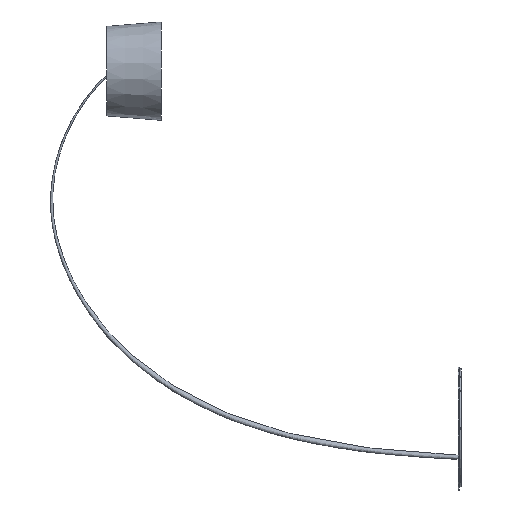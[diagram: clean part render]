
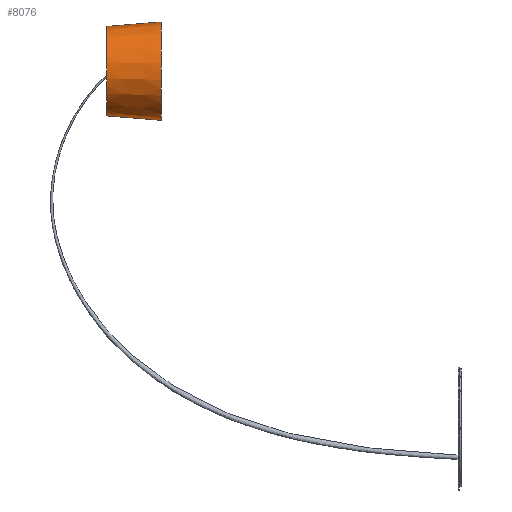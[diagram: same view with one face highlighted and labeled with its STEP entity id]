
A CAD part, left-side view. The second image highlights one B-rep face of the part: STEP entity #8076.
In plain terms, the highlighted conical face has half-angle 4.65 degrees and reference radius 400 mm.
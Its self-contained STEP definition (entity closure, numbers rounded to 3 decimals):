
#687 = ORIENTED_EDGE ( 'NONE', *, *, #23383, .T. ) ;
#1665 = VECTOR ( 'NONE', #5654, 1000. ) ;
#1730 = CARTESIAN_POINT ( 'NONE',  ( -53.189, 2407.725, 2551.202 ) ) ;
#1922 = CIRCLE ( 'NONE', #18932, 364.049 ) ;
#3035 = FACE_OUTER_BOUND ( 'NONE', #16134, .T. ) ;
#3352 = VERTEX_POINT ( 'NONE', #27252 ) ;
#3916 = EDGE_CURVE ( 'NONE', #5114, #22666, #1922, .T. ) ;
#4983 = CARTESIAN_POINT ( 'NONE',  ( -53.189, 2849.725, 2587.153 ) ) ;
#5114 = VERTEX_POINT ( 'NONE', #16370 ) ;
#5143 = CARTESIAN_POINT ( 'NONE',  ( -53.189, 2849.725, 2951.202 ) ) ;
#5654 = DIRECTION ( 'NONE',  ( 0., -0.997, 0.081 ) ) ;
#7012 = CONICAL_SURFACE ( 'NONE', #23109, 400., 0.081 ) ;
#7076 = CARTESIAN_POINT ( 'NONE',  ( -53.189, 2407.725, 2951.202 ) ) ;
#7879 = ORIENTED_EDGE ( 'NONE', *, *, #3916, .T. ) ;
#8076 = ADVANCED_FACE ( 'NONE', ( #3035 ), #7012, .T. ) ;
#8723 = CIRCLE ( 'NONE', #20656, 400. ) ;
#8789 = CARTESIAN_POINT ( 'NONE',  ( -53.189, 2407.725, 2951.202 ) ) ;
#9060 = DIRECTION ( 'NONE',  ( 0., -1., 0. ) ) ;
#9117 = DIRECTION ( 'NONE',  ( 0., -1., 0. ) ) ;
#9504 = DIRECTION ( 'NONE',  ( 0., 0., -1. ) ) ;
#11630 = CARTESIAN_POINT ( 'NONE',  ( -53.189, 2407.725, 2551.202 ) ) ;
#11910 = LINE ( 'NONE', #11630, #14336 ) ;
#12001 = CARTESIAN_POINT ( 'NONE',  ( -53.189, 2407.725, 3351.202 ) ) ;
#14336 = VECTOR ( 'NONE', #27014, 1000. ) ;
#16134 = EDGE_LOOP ( 'NONE', ( #27657, #7879, #687, #21115 ) ) ;
#16370 = CARTESIAN_POINT ( 'NONE',  ( -53.189, 2849.725, 3315.251 ) ) ;
#16566 = LINE ( 'NONE', #12001, #1665 ) ;
#17829 = DIRECTION ( 'NONE',  ( 0., 0., -1. ) ) ;
#18932 = AXIS2_PLACEMENT_3D ( 'NONE', #5143, #9060, #9504 ) ;
#19216 = EDGE_CURVE ( 'NONE', #5114, #3352, #16566, .T. ) ;
#20656 = AXIS2_PLACEMENT_3D ( 'NONE', #8789, #22027, #24767 ) ;
#21115 = ORIENTED_EDGE ( 'NONE', *, *, #22266, .F. ) ;
#22010 = VERTEX_POINT ( 'NONE', #1730 ) ;
#22027 = DIRECTION ( 'NONE',  ( 0., -1., 0. ) ) ;
#22266 = EDGE_CURVE ( 'NONE', #3352, #22010, #8723, .T. ) ;
#22666 = VERTEX_POINT ( 'NONE', #4983 ) ;
#23109 = AXIS2_PLACEMENT_3D ( 'NONE', #7076, #9117, #17829 ) ;
#23383 = EDGE_CURVE ( 'NONE', #22666, #22010, #11910, .T. ) ;
#24767 = DIRECTION ( 'NONE',  ( 0., 0., -1. ) ) ;
#27014 = DIRECTION ( 'NONE',  ( 0., -0.997, -0.081 ) ) ;
#27252 = CARTESIAN_POINT ( 'NONE',  ( -53.189, 2407.725, 3351.202 ) ) ;
#27657 = ORIENTED_EDGE ( 'NONE', *, *, #19216, .F. ) ;
